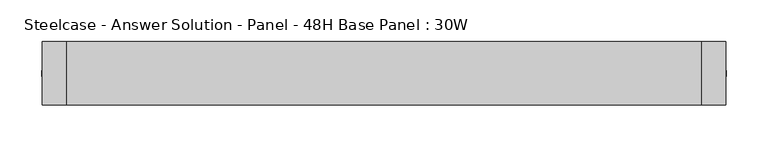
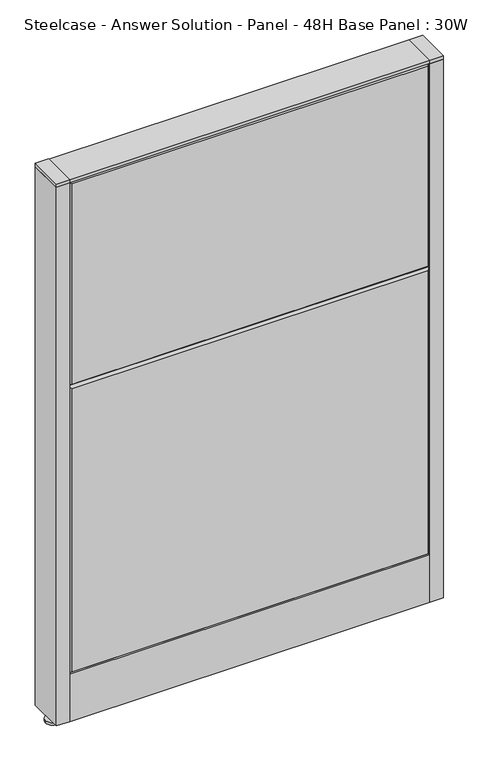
"""IFC4 building model written with IfcOpenShell, lengths in millimetres: furniture geometry, Steelcase - Answer Solution - Panel - 48H Base Panel : 30W."""

from ifc_helpers import new_model, si_unit, point, frame, frame_2d, origin, place, context, project, spatial, polyline, circle_curve, trimmed, segment, composite_curve, outline, extrude, faceted_brep, source, transform, mapped, element, save


def steelcase_answer_solution_panel_48h_base_panel_30w_8672ce2c(model_context):
    return source(origin(), model_context, "Body", "SolidModel", [
        extrude(outline(composite_curve([segment(trimmed(circle_curve(frame_2d((395.224, 0.0320214)), 5.08), [point((400.304, 0.0320214))], [point((390.144, 0.0320214))], False, "CARTESIAN"), True, "CONTINUOUS"), segment(trimmed(circle_curve(frame_2d((395.224, 0.0320214)), 5.08), [point((390.144, 0.0320214))], [point((400.304, 0.0320214))], False, "CARTESIAN"), True, "CONTINUOUS")], self_intersect=False)), frame((0.0, 0.0, 5.0799671), z_axis=(0.0, 0.0, 1.0), x_axis=(1.0, 0.0, 0.0)), (0.0, 0.0, 1.0), 10.414),
        extrude(outline(composite_curve([segment(trimmed(circle_curve(frame_2d((395.224, 0.0320214)), 15.24), [point((410.464, 0.0320214))], [point((379.984, 0.0320214))], False, "CARTESIAN"), True, "CONTINUOUS"), segment(trimmed(circle_curve(frame_2d((395.224, 0.0320214)), 15.24), [point((379.984, 0.0320214))], [point((410.464, 0.0320214))], False, "CARTESIAN"), True, "CONTINUOUS")], self_intersect=False)), frame((0.0, 0.0, -3.29e-05), z_axis=(0.0, 0.0, 1.0), x_axis=(1.0, 0.0, 0.0)), (0.0, 0.0, 1.0), 5.08),
        extrude(outline(polyline([(409.575, 38.1320408), (409.575, -38.0679592), (381.0, -38.0679592), (381.0, 38.1320408), (409.575, 38.1320408)])), frame((0.0, 0.0, 1218.2348), z_axis=(0.0, 0.0, 1.0), x_axis=(1.0, 0.0, 0.0)), (0.0, 0.0, 1.0), 7.3151671),
        extrude(outline(polyline([(409.575, 38.1320408), (409.575, -38.0679592), (381.0, -38.0679592), (381.0, 38.1320408), (409.575, 38.1320408)])), frame((0.0, 0.0, 15.4939671), z_axis=(0.0, 0.0, 1.0), x_axis=(1.0, 0.0, 0.0)), (0.0, 0.0, 1.0), 1202.7408329),
        extrude(outline(composite_curve([segment(trimmed(circle_curve(frame_2d((-395.224, 0.0320214)), 5.08), [point((-400.304, 0.0320214))], [point((-390.144, 0.0320214))], False, "CARTESIAN"), True, "CONTINUOUS"), segment(trimmed(circle_curve(frame_2d((-395.224, 0.0320214)), 5.08), [point((-390.144, 0.0320214))], [point((-400.304, 0.0320214))], False, "CARTESIAN"), True, "CONTINUOUS")], self_intersect=False)), frame((0.0, 0.0, 5.0799671), z_axis=(0.0, 0.0, 1.0), x_axis=(1.0, 0.0, 0.0)), (0.0, 0.0, 1.0), 10.414),
        extrude(outline(composite_curve([segment(trimmed(circle_curve(frame_2d((-395.224, 0.0320214)), 15.24), [point((-410.464, 0.0320214))], [point((-379.984, 0.0320214))], False, "CARTESIAN"), True, "CONTINUOUS"), segment(trimmed(circle_curve(frame_2d((-395.224, 0.0320214)), 15.24), [point((-379.984, 0.0320214))], [point((-410.464, 0.0320214))], False, "CARTESIAN"), True, "CONTINUOUS")], self_intersect=False)), frame((0.0, 0.0, -3.29e-05), z_axis=(0.0, 0.0, 1.0), x_axis=(1.0, 0.0, 0.0)), (0.0, 0.0, 1.0), 5.08),
        extrude(outline(polyline([(-409.575, 38.1320408), (-381.0, 38.1320408), (-381.0, -38.0679592), (-409.575, -38.0679592), (-409.575, 38.1320408)])), frame((0.0, 0.0, 1218.2348), z_axis=(0.0, 0.0, 1.0), x_axis=(1.0, 0.0, 0.0)), (0.0, 0.0, 1.0), 7.3151671),
        extrude(outline(polyline([(-409.575, 38.1320408), (-381.0, 38.1320408), (-381.0, -38.0679592), (-409.575, -38.0679592), (-409.575, 38.1320408)])), frame((0.0, 0.0, 15.4939671), z_axis=(0.0, 0.0, 1.0), x_axis=(1.0, 0.0, 0.0)), (0.0, 0.0, 1.0), 1202.7408329),
        faceted_brep([(-376.174, 38.1635011, 1214.374), (376.174, 38.1635011, 1214.374), (376.174, 38.1635011, 766.826), (-376.174, 38.1635011, 766.826), (-381.0, 33.3375011, 1219.2), (-381.0, 33.3375011, 762.0), (381.0, 33.3375011, 762.0), (381.0, 33.3375011, 1219.2)], [[[0, 1, 2, 3]], [[4, 5, 6, 7]], [[4, 7, 1, 0]], [[7, 6, 2, 1]], [[6, 5, 3, 2]], [[5, 4, 0, 3]]]),
        faceted_brep([(-376.174, 38.1635011, 757.174), (376.174, 38.1635011, 757.174), (376.174, 38.1635011, 125.476), (-376.174, 38.1635011, 125.476), (-381.0, 33.3375011, 762.0), (-381.0, 33.3375011, 120.65), (381.0, 33.3375011, 120.65), (381.0, 33.3375011, 762.0)], [[[0, 1, 2, 3]], [[4, 5, 6, 7]], [[4, 7, 1, 0]], [[7, 6, 2, 1]], [[6, 5, 3, 2]], [[5, 4, 0, 3]]]),
        faceted_brep([(376.174, -38.1635011, 1214.374), (-376.174, -38.1635011, 1214.374), (-376.174, -38.1635011, 766.826), (376.174, -38.1635011, 766.826), (381.0, -33.3375011, 1219.2), (381.0, -33.3375011, 762.0), (-381.0, -33.3375011, 762.0), (-381.0, -33.3375011, 1219.2)], [[[0, 1, 2, 3]], [[4, 5, 6, 7]], [[4, 7, 1, 0]], [[7, 6, 2, 1]], [[6, 5, 3, 2]], [[5, 4, 0, 3]]]),
        faceted_brep([(376.174, -38.1635011, 757.174), (-376.174, -38.1635011, 757.174), (-376.174, -38.1635011, 125.476), (376.174, -38.1635011, 125.476), (381.0, -33.3375011, 762.0), (381.0, -33.3375011, 120.65), (-381.0, -33.3375011, 120.65), (-381.0, -33.3375011, 762.0)], [[[0, 1, 2, 3]], [[4, 5, 6, 7]], [[4, 7, 1, 0]], [[7, 6, 2, 1]], [[6, 5, 3, 2]], [[5, 4, 0, 3]]]),
        extrude(outline(polyline([(381.0, 38.1000194), (381.0, -38.1000194), (-381.0, -38.1000194), (-381.0, 38.1000194), (381.0, 38.1000194)])), frame((0.0, 0.0, 1219.2), z_axis=(0.0, 0.0, 1.0), x_axis=(1.0, 0.0, 0.0)), (0.0, 0.0, 1.0), 6.35),
        extrude(outline(polyline([(25.4000011, 119.8575157), (25.4000011, 120.65), (38.1000194, 120.65), (38.1000194, 15.494), (37.3075215, 15.494), (37.3075215, 119.8575157), (25.4000011, 119.8575157)])), frame((-381.0, 0.0, 0.0), z_axis=(1.0, 0.0, 0.0), x_axis=(0.0, 1.0, 0.0)), (0.0, 0.0, 1.0), 762.0),
        extrude(outline(polyline([(-25.4000011, 119.8575157), (-37.3075215, 119.8575157), (-37.3075215, 15.494), (-38.1000194, 15.494), (-38.1000194, 120.65), (-25.4000011, 120.65), (-25.4000011, 119.8575157)])), frame((-381.0, 0.0, 0.0), z_axis=(1.0, 0.0, 0.0), x_axis=(0.0, 1.0, 0.0)), (0.0, 0.0, 1.0), 762.0),
    ])


if __name__ == "__main__":
    model = new_model("IFC4")
    model_context = context("Model", 3, world=origin())
    ifc_project = project(units=[si_unit("LENGTHUNIT", "METRE", prefix="MILLI")], contexts=[model_context])
    site = spatial("IfcSite", under=ifc_project)
    building = spatial("IfcBuilding", under=site)
    placement = place(None, origin())
    steelcase_answer_solution_panel_48h_base_panel_30w_shape = steelcase_answer_solution_panel_48h_base_panel_30w_8672ce2c(model_context)
    element("IfcFurniture", 1, ObjectType="Steelcase - Answer Solution - Panel - 48H Base Panel : 30W", at=placement, inside=building, context=model_context, shape_type="MappedRepresentation", body=[
        mapped(steelcase_answer_solution_panel_48h_base_panel_30w_shape, transform((0.0, 0.0, 0.0), x_axis=(1.0, 0.0, 0.0), y_axis=(0.0, 1.0, 0.0), z_axis=(0.0, 0.0, 1.0))),
    ])
    save(model, "model.ifc")
